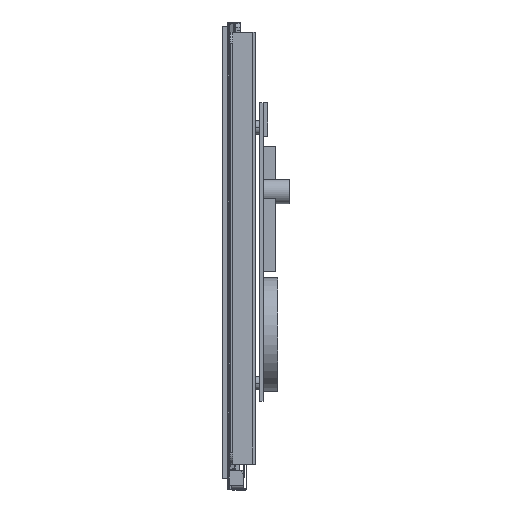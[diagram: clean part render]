
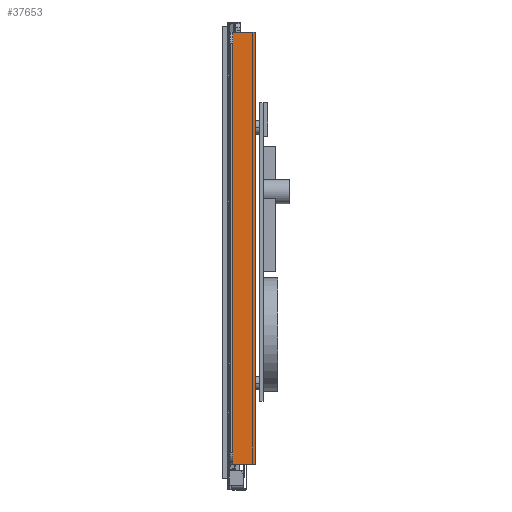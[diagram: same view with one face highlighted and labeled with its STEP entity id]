
A CAD part, left-side view. The second image highlights one B-rep face of the part: STEP entity #37653.
In plain terms, the highlighted planar face has unit normal (-1, 0, 0).
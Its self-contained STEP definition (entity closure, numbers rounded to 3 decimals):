
#34922=DIRECTION('',(0.,0.,-1.));
#34923=VECTOR('',#34922,193.);
#34924=CARTESIAN_POINT('',(-140.8,3.,99.1));
#34925=LINE('',#34924,#34923);
#35258=DIRECTION('',(0.,1.,0.));
#35259=VECTOR('',#35258,10.);
#35260=CARTESIAN_POINT('',(-140.8,-7.,-93.9));
#35261=LINE('',#35260,#35259);
#35262=DIRECTION('',(0.,-1.,0.));
#35263=VECTOR('',#35262,10.);
#35264=CARTESIAN_POINT('',(-140.8,3.,99.1));
#35265=LINE('',#35264,#35263);
#35266=DIRECTION('',(0.,0.,-1.));
#35267=VECTOR('',#35266,193.);
#35268=CARTESIAN_POINT('',(-140.8,-7.,99.1));
#35269=LINE('',#35268,#35267);
#36794=CARTESIAN_POINT('',(-140.8,3.,-93.9));
#36796=VERTEX_POINT('',#36794);
#36798=CARTESIAN_POINT('',(-140.8,-7.,-93.9));
#36799=VERTEX_POINT('',#36798);
#36833=CARTESIAN_POINT('',(-140.8,-7.,99.1));
#36835=VERTEX_POINT('',#36833);
#36934=CARTESIAN_POINT('',(-140.8,3.,99.1));
#36935=VERTEX_POINT('',#36934);
#37642=CARTESIAN_POINT('',(-140.8,-2.,2.6));
#37643=DIRECTION('',(1.,0.,0.));
#37644=DIRECTION('',(0.,1.,0.));
#37645=AXIS2_PLACEMENT_3D('',#37642,#37643,#37644);
#37646=PLANE('',#37645);
#37647=ORIENTED_EDGE('',*,*,#37379,.T.);
#37648=ORIENTED_EDGE('',*,*,#37305,.F.);
#37649=ORIENTED_EDGE('',*,*,#37605,.T.);
#37650=ORIENTED_EDGE('',*,*,#37466,.T.);
#37651=EDGE_LOOP('',(#37647,#37648,#37649,#37650));
#37652=FACE_OUTER_BOUND('',#37651,.F.);
#37305=EDGE_CURVE('',#36935,#36796,#34925,.T.);
#37379=EDGE_CURVE('',#36799,#36796,#35261,.T.);
#37466=EDGE_CURVE('',#36835,#36799,#35269,.T.);
#37605=EDGE_CURVE('',#36935,#36835,#35265,.T.);
#37653=ADVANCED_FACE('',(#37652),#37646,.F.);
